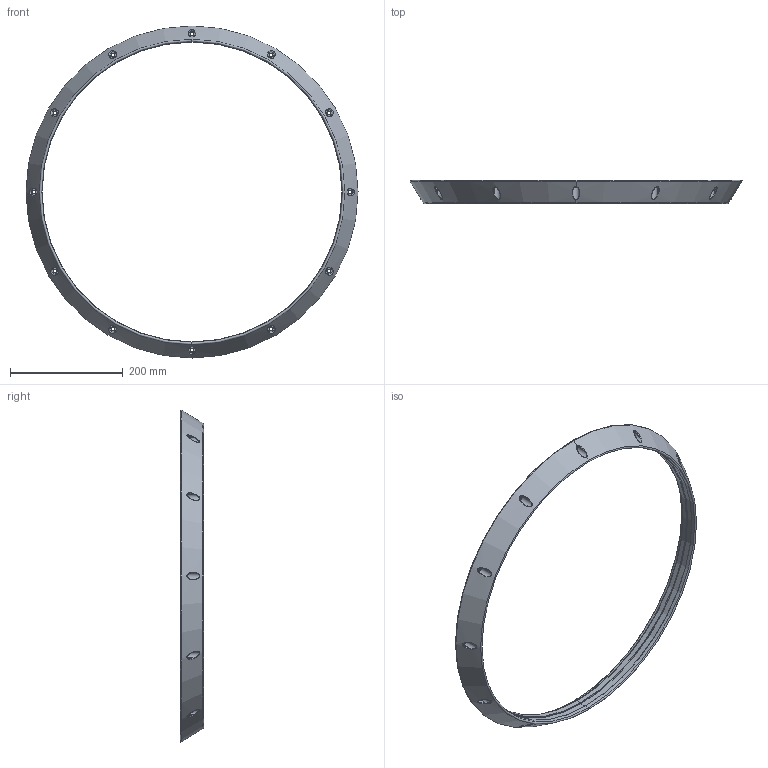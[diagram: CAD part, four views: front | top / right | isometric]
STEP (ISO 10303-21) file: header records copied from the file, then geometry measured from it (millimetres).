
FILE_DESCRIPTION(('CATIA V5 STEP Exchange','CAx-IF Rec.Pracs.--- Composite Materials ---3.4---2017-06-13'),'2;1');
FILE_NAME('C:\Users\PM610867\AppData\Local\ST-WORK_R32_PROD\Liasse-PDF\IEM_PEPSI_CEG_DEF_K_1229_218-SUPPORT_PEIGNE_TUBE_INTERM_COTE_ELECTRODE_MOBILE-A.stp','2025-03-31T12:19:52+00:00',('none'),('none'),'CATIA Version 5-6 Release 2022 SP2','CATIA V5 STEP AP203 v2','none');
FILE_SCHEMA(('CONFIG_CONTROL_DESIGN'));
Length unit declared in the file: millimetre
Products named in the file (1): IEM PEPSI CEG DEF K 1229 218
Bounding box: 588.11 x 40.83 x 588.11 mm (x, y, z)
Volume: 987789.5 mm3; surface area: 215912.2 mm2
Topology: 1 solids, 1 shells, 127 faces, 284 edges, 172 vertices
Faces by surface type: cylinder 56, bspline 28, torus 20, plane 17, cone 6
Entity records: 9750 total; most frequent: CARTESIAN_POINT 7319, ORIENTED_EDGE 568, DIRECTION 294, EDGE_CURVE 284, AXIS2_PLACEMENT_3D 184, VERTEX_POINT 172, EDGE_LOOP 166, CIRCLE 136
